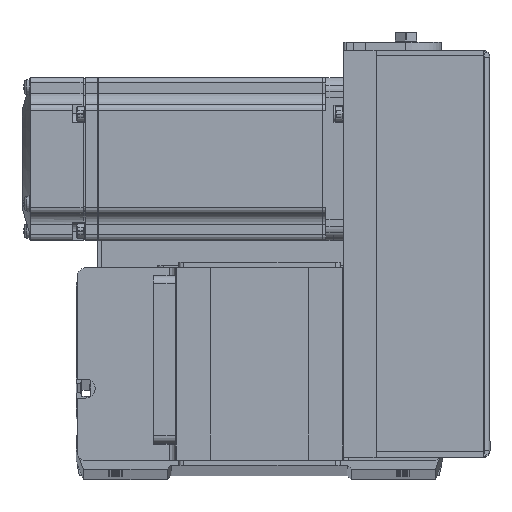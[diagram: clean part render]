
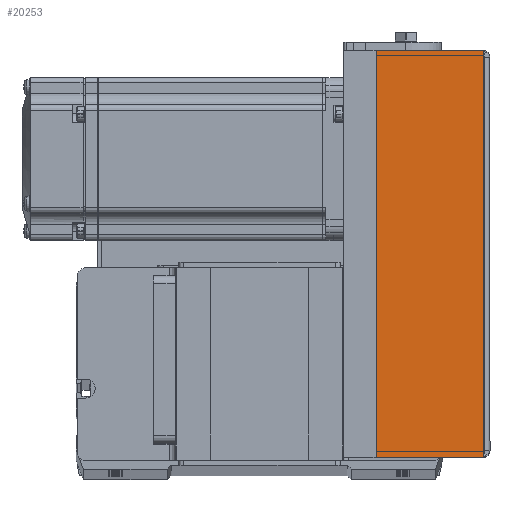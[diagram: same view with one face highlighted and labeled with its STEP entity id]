
A CAD part, top view. The second image highlights one B-rep face of the part: STEP entity #20253.
In plain terms, the highlighted planar face has unit normal (0, 0, 1) as drawn and (0, -1, 0) by its records, which use the part's own axes.
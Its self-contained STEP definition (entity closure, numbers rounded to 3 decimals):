
#1136 = DIRECTION ( 'NONE',  ( 0., 0., -1. ) ) ;
#1624 = DIRECTION ( 'NONE',  ( 0., 0., -1. ) ) ;
#2296 = EDGE_CURVE ( 'NONE', #33702, #11565, #28990, .T. ) ;
#3370 = ORIENTED_EDGE ( 'NONE', *, *, #11410, .F. ) ;
#4124 = PLANE ( 'NONE',  #36249 ) ;
#4164 = ORIENTED_EDGE ( 'NONE', *, *, #20312, .T. ) ;
#4541 = CARTESIAN_POINT ( 'NONE',  ( -75., -36., 51.5 ) ) ;
#4557 = VECTOR ( 'NONE', #28586, 1000. ) ;
#4782 = EDGE_CURVE ( 'NONE', #33702, #6066, #35372, .T. ) ;
#6066 = VERTEX_POINT ( 'NONE', #25377 ) ;
#11106 = CARTESIAN_POINT ( 'NONE',  ( 0., -36., 52. ) ) ;
#11255 = VERTEX_POINT ( 'NONE', #20624 ) ;
#11410 = EDGE_CURVE ( 'NONE', #6066, #11255, #35966, .T. ) ;
#11565 = VERTEX_POINT ( 'NONE', #34181 ) ;
#17757 = VECTOR ( 'NONE', #30357, 1000. ) ;
#18879 = ORIENTED_EDGE ( 'NONE', *, *, #2296, .T. ) ;
#20253 = ADVANCED_FACE ( 'NONE', ( #34900 ), #4124, .F. ) ;
#20312 = EDGE_CURVE ( 'NONE', #11565, #11255, #34701, .T. ) ;
#20624 = CARTESIAN_POINT ( 'NONE',  ( 75., -36., 12. ) ) ;
#21608 = VECTOR ( 'NONE', #1624, 1000. ) ;
#22892 = VECTOR ( 'NONE', #37898, 1000. ) ;
#25255 = EDGE_LOOP ( 'NONE', ( #32766, #18879, #4164, #3370 ) ) ;
#25377 = CARTESIAN_POINT ( 'NONE',  ( 75., -36., 51.5 ) ) ;
#28586 = DIRECTION ( 'NONE',  ( 1., 0., 0. ) ) ;
#28598 = CARTESIAN_POINT ( 'NONE',  ( -75., -36., 51.5 ) ) ;
#28990 = LINE ( 'NONE', #28598, #21608 ) ;
#30357 = DIRECTION ( 'NONE',  ( 0., 0., -1. ) ) ;
#31782 = CARTESIAN_POINT ( 'NONE',  ( 75., -36., 51.5 ) ) ;
#31895 = DIRECTION ( 'NONE',  ( 0., 1., 0. ) ) ;
#32088 = CARTESIAN_POINT ( 'NONE',  ( 0., -36., 12. ) ) ;
#32766 = ORIENTED_EDGE ( 'NONE', *, *, #4782, .F. ) ;
#33702 = VERTEX_POINT ( 'NONE', #4541 ) ;
#34181 = CARTESIAN_POINT ( 'NONE',  ( -75., -36., 12. ) ) ;
#34701 = LINE ( 'NONE', #32088, #22892 ) ;
#34900 = FACE_OUTER_BOUND ( 'NONE', #25255, .T. ) ;
#35372 = LINE ( 'NONE', #31782, #4557 ) ;
#35966 = LINE ( 'NONE', #36359, #17757 ) ;
#36249 = AXIS2_PLACEMENT_3D ( 'NONE', #11106, #31895, #1136 ) ;
#36359 = CARTESIAN_POINT ( 'NONE',  ( 75., -36., 51.5 ) ) ;
#37898 = DIRECTION ( 'NONE',  ( 1., 0., 0. ) ) ;
